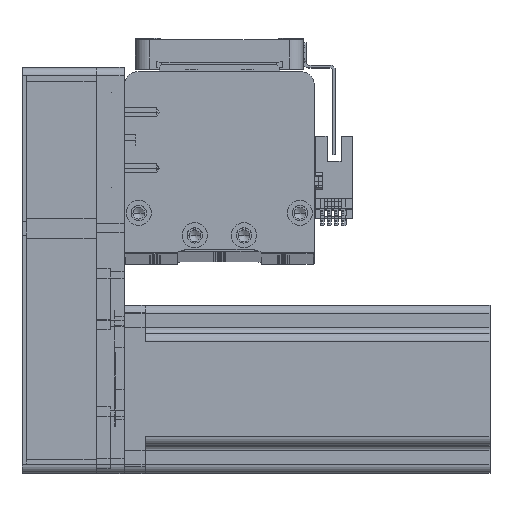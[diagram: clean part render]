
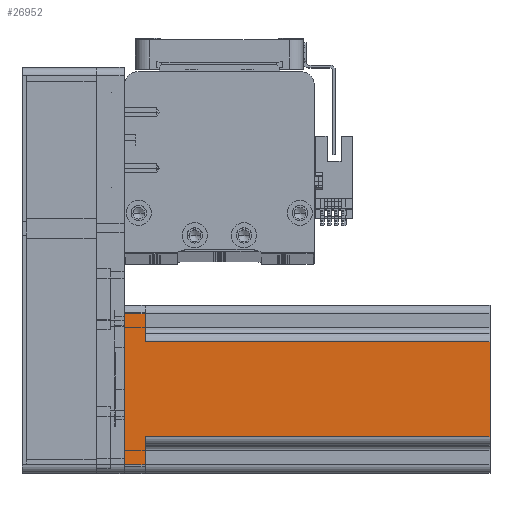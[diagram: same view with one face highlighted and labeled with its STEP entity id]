
A CAD part, top view. The second image highlights one B-rep face of the part: STEP entity #26952.
In plain terms, the highlighted planar face has unit normal (0, 0, 1) as drawn and (0, -1, 0) by its records, which use the part's own axes.
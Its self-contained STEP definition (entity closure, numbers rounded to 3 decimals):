
#637 = CARTESIAN_POINT ( 'NONE',  ( 30., -30., 130.7 ) ) ;
#2555 = EDGE_CURVE ( 'NONE', #26820, #8961, #17336, .T. ) ;
#3577 = ORIENTED_EDGE ( 'NONE', *, *, #29125, .T. ) ;
#5033 = VECTOR ( 'NONE', #41111, 1000. ) ;
#5159 = DIRECTION ( 'NONE',  ( -1., 0., 0. ) ) ;
#6782 = LINE ( 'NONE', #52182, #50141 ) ;
#7277 = CARTESIAN_POINT ( 'NONE',  ( 17., -30., 7.5 ) ) ;
#7362 = VERTEX_POINT ( 'NONE', #8230 ) ;
#7560 = LINE ( 'NONE', #12120, #19497 ) ;
#8230 = CARTESIAN_POINT ( 'NONE',  ( -27., -30., 0. ) ) ;
#8961 = VERTEX_POINT ( 'NONE', #19202 ) ;
#9445 = PLANE ( 'NONE',  #41742 ) ;
#10720 = ORIENTED_EDGE ( 'NONE', *, *, #19445, .T. ) ;
#10734 = EDGE_CURVE ( 'NONE', #7362, #56275, #35192, .T. ) ;
#11977 = CARTESIAN_POINT ( 'NONE',  ( -17., -30., 130.7 ) ) ;
#12120 = CARTESIAN_POINT ( 'NONE',  ( 30., -30., 130.7 ) ) ;
#13262 = EDGE_CURVE ( 'NONE', #26820, #49837, #7560, .T. ) ;
#13434 = ORIENTED_EDGE ( 'NONE', *, *, #27282, .T. ) ;
#13675 = CARTESIAN_POINT ( 'NONE',  ( 30., -30., 0. ) ) ;
#14124 = CARTESIAN_POINT ( 'NONE',  ( 17., -30., 130.7 ) ) ;
#16605 = DIRECTION ( 'NONE',  ( 1., 0., 0. ) ) ;
#17271 = CARTESIAN_POINT ( 'NONE',  ( -17., -30., 130.7 ) ) ;
#17336 = LINE ( 'NONE', #11977, #51576 ) ;
#17985 = DIRECTION ( 'NONE',  ( 1., 0., 0. ) ) ;
#19202 = CARTESIAN_POINT ( 'NONE',  ( -17., -30., 7.5 ) ) ;
#19445 = EDGE_CURVE ( 'NONE', #52417, #7362, #30037, .T. ) ;
#19497 = VECTOR ( 'NONE', #16605, 1000. ) ;
#22405 = ORIENTED_EDGE ( 'NONE', *, *, #13262, .F. ) ;
#23155 = ORIENTED_EDGE ( 'NONE', *, *, #47144, .T. ) ;
#23278 = VECTOR ( 'NONE', #17985, 1000. ) ;
#23363 = VERTEX_POINT ( 'NONE', #26982 ) ;
#25138 = EDGE_LOOP ( 'NONE', ( #22405, #44360, #40819, #10720, #51251, #13434, #3577, #23155 ) ) ;
#26820 = VERTEX_POINT ( 'NONE', #17271 ) ;
#26952 = ADVANCED_FACE ( 'NONE', ( #54738 ), #9445, .F. ) ;
#26982 = CARTESIAN_POINT ( 'NONE',  ( 27., -30., 7.5 ) ) ;
#27200 = CARTESIAN_POINT ( 'NONE',  ( -20., -30., 7.5 ) ) ;
#27282 = EDGE_CURVE ( 'NONE', #56275, #23363, #6782, .T. ) ;
#27611 = DIRECTION ( 'NONE',  ( 0., 0., 1. ) ) ;
#29125 = EDGE_CURVE ( 'NONE', #23363, #40923, #52560, .T. ) ;
#30037 = LINE ( 'NONE', #41689, #41951 ) ;
#30425 = CARTESIAN_POINT ( 'NONE',  ( -27., -30., 7.5 ) ) ;
#31916 = DIRECTION ( 'NONE',  ( 0., 1., 0. ) ) ;
#32726 = DIRECTION ( 'NONE',  ( 0., 0., -1. ) ) ;
#35192 = LINE ( 'NONE', #13675, #23278 ) ;
#35278 = CARTESIAN_POINT ( 'NONE',  ( 27., -30., 0. ) ) ;
#35320 = LINE ( 'NONE', #14124, #47160 ) ;
#35618 = VECTOR ( 'NONE', #54540, 1000. ) ;
#36162 = CARTESIAN_POINT ( 'NONE',  ( 17., -30., 130.7 ) ) ;
#40819 = ORIENTED_EDGE ( 'NONE', *, *, #56470, .F. ) ;
#40923 = VERTEX_POINT ( 'NONE', #7277 ) ;
#41111 = DIRECTION ( 'NONE',  ( -1., 0., 0. ) ) ;
#41689 = CARTESIAN_POINT ( 'NONE',  ( -27., -30., 130.7 ) ) ;
#41742 = AXIS2_PLACEMENT_3D ( 'NONE', #637, #31916, #5159 ) ;
#41951 = VECTOR ( 'NONE', #32726, 1000. ) ;
#44360 = ORIENTED_EDGE ( 'NONE', *, *, #2555, .T. ) ;
#45603 = CARTESIAN_POINT ( 'NONE',  ( 20., -30., 7.5 ) ) ;
#47144 = EDGE_CURVE ( 'NONE', #40923, #49837, #35320, .T. ) ;
#47160 = VECTOR ( 'NONE', #27611, 1000. ) ;
#47455 = LINE ( 'NONE', #27200, #35618 ) ;
#49837 = VERTEX_POINT ( 'NONE', #36162 ) ;
#50141 = VECTOR ( 'NONE', #56650, 1000. ) ;
#51251 = ORIENTED_EDGE ( 'NONE', *, *, #10734, .T. ) ;
#51576 = VECTOR ( 'NONE', #52254, 1000. ) ;
#52182 = CARTESIAN_POINT ( 'NONE',  ( 27., -30., 130.7 ) ) ;
#52254 = DIRECTION ( 'NONE',  ( 0., 0., -1. ) ) ;
#52417 = VERTEX_POINT ( 'NONE', #30425 ) ;
#52560 = LINE ( 'NONE', #45603, #5033 ) ;
#54540 = DIRECTION ( 'NONE',  ( 1., 0., 0. ) ) ;
#54738 = FACE_OUTER_BOUND ( 'NONE', #25138, .T. ) ;
#56275 = VERTEX_POINT ( 'NONE', #35278 ) ;
#56470 = EDGE_CURVE ( 'NONE', #52417, #8961, #47455, .T. ) ;
#56650 = DIRECTION ( 'NONE',  ( 0., 0., 1. ) ) ;
